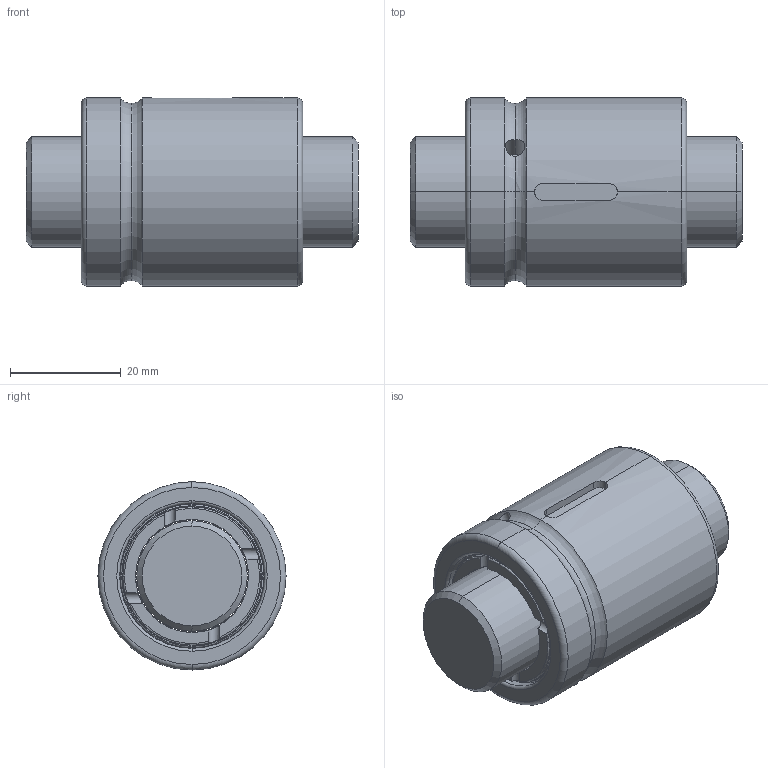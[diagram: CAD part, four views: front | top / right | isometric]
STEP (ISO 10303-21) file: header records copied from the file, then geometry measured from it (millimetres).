
FILE_DESCRIPTION (( 'STEP AP203' ), '1' );
FILE_NAME ('SCIR02004T4-C.STEP', '2020-06-17T07:33:31', ( '' ), ( '' ), 'SwSTEP 2.0', 'SolidWorks 2013', '' );
FILE_SCHEMA (( 'CONFIG_CONTROL_DESIGN' ));
Length unit declared in the file: millimetre
Products named in the file (1): SCIR02004T4-C
Bounding box: 60 x 34 x 34 mm (x, y, z)
Volume: 40334.9 mm3; surface area: 14528.1 mm2
Topology: 2 solids, 2 shells, 100 faces, 244 edges, 153 vertices
Faces by surface type: cylinder 43, torus 32, plane 21, cone 4
Entity records: 3785 total; most frequent: CARTESIAN_POINT 1342, DIRECTION 524, ORIENTED_EDGE 488, EDGE_CURVE 244, AXIS2_PLACEMENT_3D 235, VERTEX_POINT 153, CIRCLE 134, EDGE_LOOP 109
